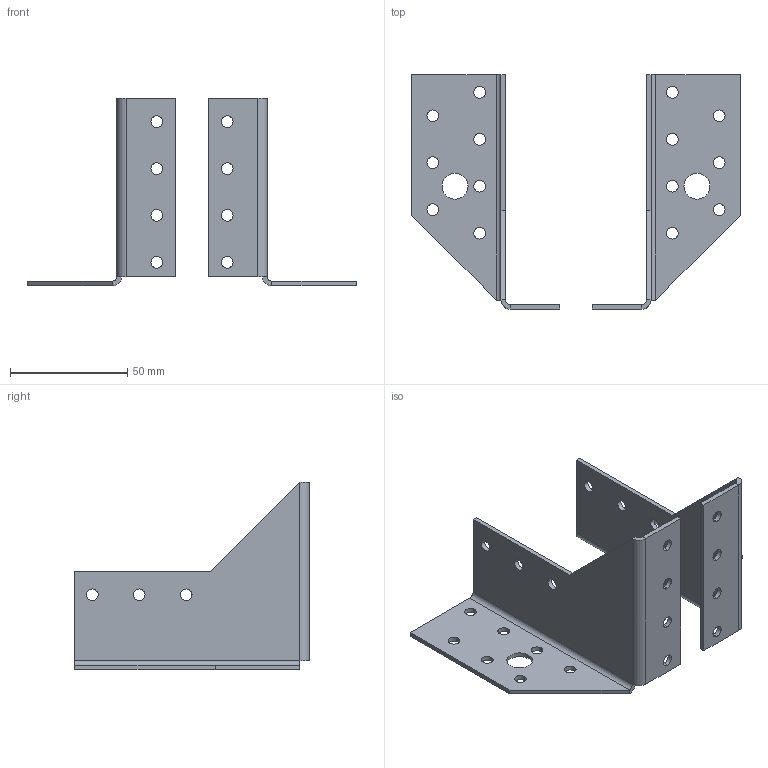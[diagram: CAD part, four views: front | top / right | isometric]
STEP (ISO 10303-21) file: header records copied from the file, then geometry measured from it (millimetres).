
FILE_DESCRIPTION (( 'STEP AP203' ), '1' );
FILE_NAME ('102.STEP', '2021-04-18T12:54:04', ( '' ), ( '' ), 'SwSTEP 2.0', 'SolidWorks 2013', '' );
FILE_SCHEMA (( 'CONFIG_CONTROL_DESIGN' ));
Length unit declared in the file: millimetre
Products named in the file (1): 102
Bounding box: 140 x 100 x 80 mm (x, y, z)
Volume: 36858.4 mm3; surface area: 39610.3 mm2
Topology: 2 solids, 2 shells, 106 faces, 274 edges, 172 vertices
Faces by surface type: cylinder 68, plane 38
Entity records: 3453 total; most frequent: DIRECTION 624, CARTESIAN_POINT 553, ORIENTED_EDGE 548, EDGE_CURVE 274, AXIS2_PLACEMENT_3D 243, VERTEX_POINT 172, EDGE_LOOP 166, VECTOR 138
